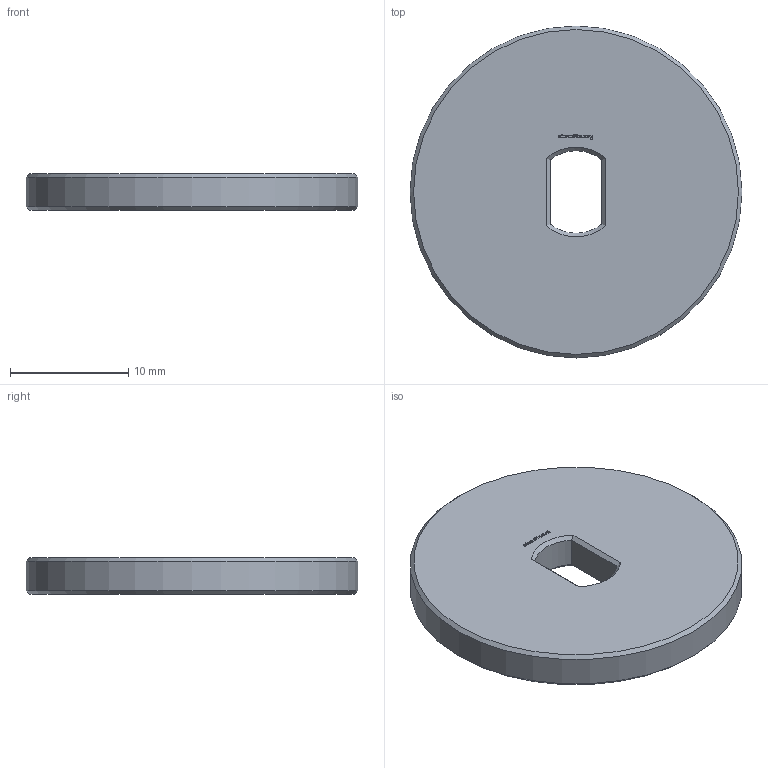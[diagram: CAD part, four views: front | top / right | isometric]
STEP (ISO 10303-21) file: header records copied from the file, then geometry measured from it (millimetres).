
FILE_DESCRIPTION(/* description */ (''),/* implementation_level */ '2;1');
FILE_NAME(/* name */ '/Users/paulokiefe/Desktop/STEMFIE/Fasteners/Washers/Fixed/Washer WSR FXD BU0.25x2.25 - SPN-WSR-0006 v1.step',/* time_stamp */ '2020-09-27T23:12:43+02:00',/* author */ (''),/* organization */ (''),/* preprocessor_version */ 'ST-DEVELOPER v18.1',/* originating_system */ 'Autodesk Translation Framework v9.3.0.1241',/* authorisation */ '');
FILE_SCHEMA (('AUTOMOTIVE_DESIGN { 1 0 10303 214 3 1 1 }'));
Length unit declared in the file: millimetre
Products named in the file (1): Washer WSR FXD BU0.25x2.25 - SPN-WSR-0006
Bounding box: 28.12 x 28.12 x 3.12 mm (x, y, z)
Volume: 1842.2 mm3; surface area: 1487.6 mm2
Topology: 1 solids, 1 shells, 261 faces, 731 edges, 484 vertices
Faces by surface type: plane 252, cone 6, cylinder 3
Full cylindrical faces by diameter (mm): 28.125 x1
Entity records: 8262 total; most frequent: CARTESIAN_POINT 1501, ORIENTED_EDGE 1462, DIRECTION 1259, EDGE_CURVE 731, LINE 711, VECTOR 711, VERTEX_POINT 484, EDGE_LOOP 275
